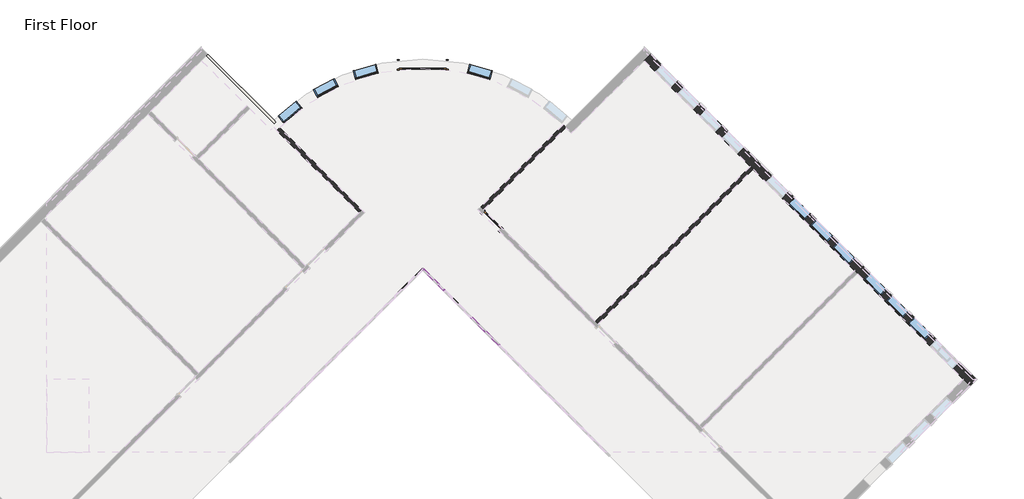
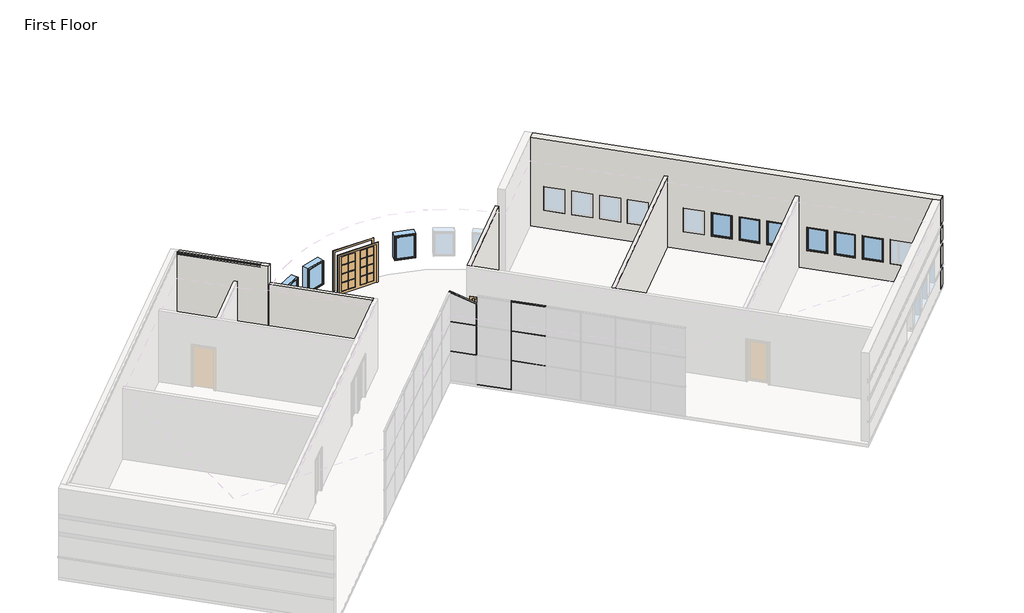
# One storey, part 4 of 5: 19 members, 10 windows, 5 walls, 2 doors.
"""IFC4 building model written with IfcOpenShell, lengths in millimetres."""

from ifc_helpers import new_model, si_unit, point, frame, frame_2d, origin, origin_with_axes, place, context, project, spatial, polyline, circle_curve, ellipse_curve, trimmed, segment, composite_curve, outline, extrude, faceted_brep, transform, mapped, element, save
from ifc_brep_helpers import plane_surface, cylinder_surface, revolved_surface, advanced_brep
from components import door_74f1c961, door_5f5b55da, member_b8a5b5c0, member_155beb68, member_42be4715, member_a3731390, member_6121af53, member_b87a50da, member_76f0c52a, member_b73a8a31, member_4ed907bf, window_15c49d37, window_0e2fc6ce

model = new_model("IFC4")

# Units and contexts
model_context = context("Model", 3, world=origin())
ifc_project = project(units=[si_unit("LENGTHUNIT", "METRE", prefix="MILLI")], contexts=[model_context])

# Site, building, storey
site = spatial("IfcSite", under=ifc_project)
building = spatial("IfcBuilding", under=site)
storey = spatial("IfcBuildingStorey", under=building, Name="First Floor", Elevation=0.0)

# Doors
placement = place(None, origin())
door_shape = door_74f1c961(model_context)
element("IfcDoor", 1, ObjectType="Double-Glass 2 : 72\" x 78\"", at=placement, inside=storey, context=model_context, shape_type="MappedRepresentation", body=[
    mapped(door_shape, transform((-3443.7425556, 10275.0854226, 0.0), x_axis=(-0.9999999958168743, -9.146721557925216e-05, 0.0), y_axis=(9.146721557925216e-05, -0.9999999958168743, 0.0), z_axis=(0.0, 0.0, 1.0))),
])
door_2_shape = door_5f5b55da(model_context)
element("IfcDoor", 2, ObjectType="Single-Glass 1 : 36\" x 84\"", at=placement, inside=storey, context=model_context, shape_type="MappedRepresentation", body=[
    mapped(door_2_shape, transform((-756.7914834, 4195.5530635, 0.0), x_axis=(-0.7071067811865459, 0.7071067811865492, 0.0), y_axis=(-0.7071067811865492, -0.7071067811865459, 0.0), z_axis=(0.0, 0.0, 1.0))),
])

# Members
member_shape = member_b8a5b5c0(model_context)
element("IfcMember", 3, ObjectType="Rectangular Mullion : 1.5\" x 2.5\" Rectangular", at=placement, inside=storey, context=model_context, shape_type="MappedRepresentation", body=[
    mapped(member_shape, transform((-3469.951364, 2295.1063619, 0.0), x_axis=(0.0, 0.0, -1.0), y_axis=(-0.7071067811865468, 0.7071067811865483, 0.0), z_axis=(0.7071067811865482, 0.7071067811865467, 0.0))),
])
member_2_shape = member_155beb68(model_context)
element("IfcMember", 4, ObjectType="Rectangular Mullion : 1.5\" x 2.5\" Rectangular", at=placement, inside=storey, context=model_context, shape_type="MappedRepresentation", body=[
    mapped(member_2_shape, transform((-1536.9512339, 415.9877686, 0.0), x_axis=(-0.7071067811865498, 0.7071067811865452, 0.0), y_axis=(0.7071067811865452, 0.7071067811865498, 0.0), z_axis=(0.0, 0.0, -1.0))),
])
member_3_shape = member_42be4715(model_context)
element("IfcMember", 5, ObjectType="Rectangular Mullion : 1.5\" x 2.5\" Rectangular", at=placement, inside=storey, context=model_context, shape_type="MappedRepresentation", body=[
    mapped(member_3_shape, transform((-1523.4808497, 402.5173844, 1524.0), x_axis=(0.0, 0.0, 1.0), y_axis=(0.7071067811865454, 0.7071067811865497, 0.0), z_axis=(-0.7071067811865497, 0.7071067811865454, 0.0))),
])
element("IfcMember", 6, ObjectType="Rectangular Mullion : 1.5\" x 2.5\" Rectangular", at=placement, inside=storey, context=model_context, shape_type="MappedRepresentation", body=[
    mapped(member_3_shape, transform((-1523.4808497, 402.5173844, 3048.0), x_axis=(0.0, 0.0, 1.0), y_axis=(0.7071067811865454, 0.7071067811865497, 0.0), z_axis=(-0.7071067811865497, 0.7071067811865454, 0.0))),
])
member_4_shape = member_a3731390(model_context)
element("IfcMember", 7, ObjectType="Rectangular Mullion : 1.5\" x 2.5\" Rectangular", at=placement, inside=storey, context=model_context, shape_type="MappedRepresentation", body=[
    mapped(member_4_shape, transform((-3416.0698272, 2295.1063619, 1524.0), x_axis=(0.0, 0.0, 1.0), y_axis=(0.7071067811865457, 0.7071067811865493, 0.0), z_axis=(-0.7071067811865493, 0.7071067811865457, 0.0))),
])
element("IfcMember", 8, ObjectType="Rectangular Mullion : 1.5\" x 2.5\" Rectangular", at=placement, inside=storey, context=model_context, shape_type="MappedRepresentation", body=[
    mapped(member_4_shape, transform((-3416.0698272, 2295.1063619, 3048.0), x_axis=(0.0, 0.0, 1.0), y_axis=(0.7071067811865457, 0.7071067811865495, 0.0), z_axis=(-0.7071067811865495, 0.7071067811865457, 0.0))),
])
member_5_shape = member_6121af53(model_context)
element("IfcMember", 9, ObjectType="Rectangular Mullion : 1.5\" x 2.5\" Rectangular", at=placement, inside=storey, context=model_context, shape_type="MappedRepresentation", body=[
    mapped(member_5_shape, transform((-1550.4216181, 429.4581527, 0.0), x_axis=(0.0, 0.0, -1.0), y_axis=(0.7071067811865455, 0.7071067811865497, 0.0), z_axis=(0.7071067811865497, -0.7071067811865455, 0.0))),
])
element("IfcMember", 10, ObjectType="Rectangular Mullion : 1.5\" x 2.5\" Rectangular", at=placement, inside=storey, context=model_context, shape_type="MappedRepresentation", body=[
    mapped(member_5_shape, transform((-1523.4808497, 402.5173844, 4572.0), x_axis=(0.0, 0.0, 1.0), y_axis=(0.7071067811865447, 0.7071067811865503, 0.0), z_axis=(-0.7071067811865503, 0.7071067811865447, 0.0))),
])
element("IfcMember", 11, ObjectType="Rectangular Mullion : 1.5\" x 2.5\" Rectangular", at=placement, inside=storey, context=model_context, shape_type="MappedRepresentation", body=[
    mapped(member_2_shape, transform((-1536.9512339, 415.9877686, 1524.0), x_axis=(-0.7071067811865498, 0.7071067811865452, 0.0), y_axis=(0.7071067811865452, 0.7071067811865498, 0.0), z_axis=(0.0, 0.0, -1.0))),
])
element("IfcMember", 12, ObjectType="Rectangular Mullion : 1.5\" x 2.5\" Rectangular", at=placement, inside=storey, context=model_context, shape_type="MappedRepresentation", body=[
    mapped(member_2_shape, transform((-2614.5819684, 1493.6185031, 1524.0), x_axis=(-0.7071067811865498, 0.7071067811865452, 0.0), y_axis=(0.7071067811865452, 0.7071067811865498, 0.0), z_axis=(0.0, 0.0, -1.0))),
])
element("IfcMember", 13, ObjectType="Rectangular Mullion : 1.5\" x 2.5\" Rectangular", at=placement, inside=storey, context=model_context, shape_type="MappedRepresentation", body=[
    mapped(member_2_shape, transform((-1536.9512339, 415.9877686, 3048.0), x_axis=(-0.7071067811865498, 0.7071067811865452, 0.0), y_axis=(0.7071067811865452, 0.7071067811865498, 0.0), z_axis=(0.0, 0.0, -1.0))),
])
member_6_shape = member_b87a50da(model_context)
element("IfcMember", 14, ObjectType="Rectangular Mullion : 1.5\" x 2.5\" Rectangular", at=placement, inside=storey, context=model_context, shape_type="MappedRepresentation", body=[
    mapped(member_6_shape, transform((-3443.0105956, 2322.0471303, 4572.0), x_axis=(0.7071067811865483, 0.7071067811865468, 0.0), y_axis=(-0.7071067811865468, 0.7071067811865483, 0.0), z_axis=(0.0, 0.0, 1.0))),
])
element("IfcMember", 15, ObjectType="Rectangular Mullion : 1.5\" x 2.5\" Rectangular", at=placement, inside=storey, context=model_context, shape_type="MappedRepresentation", body=[
    mapped(member_6_shape, transform((-3443.0105956, 2322.0471303, 0.0), x_axis=(-0.7071067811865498, 0.7071067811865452, 0.0), y_axis=(0.7071067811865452, 0.7071067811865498, 0.0), z_axis=(0.0, 0.0, -1.0))),
])
element("IfcMember", 16, ObjectType="Rectangular Mullion : 1.5\" x 2.5\" Rectangular", at=placement, inside=storey, context=model_context, shape_type="MappedRepresentation", body=[
    mapped(member_6_shape, transform((-3443.0105956, 2322.0471303, 1524.0), x_axis=(-0.7071067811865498, 0.7071067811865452, 0.0), y_axis=(0.7071067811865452, 0.7071067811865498, 0.0), z_axis=(0.0, 0.0, -1.0))),
])
element("IfcMember", 17, ObjectType="Rectangular Mullion : 1.5\" x 2.5\" Rectangular", at=placement, inside=storey, context=model_context, shape_type="MappedRepresentation", body=[
    mapped(member_6_shape, transform((-3443.0105956, 2322.0471303, 1524.0), x_axis=(0.7071067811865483, 0.7071067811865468, 0.0), y_axis=(-0.7071067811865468, 0.7071067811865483, 0.0), z_axis=(0.0, 0.0, 1.0))),
])
element("IfcMember", 18, ObjectType="Rectangular Mullion : 1.5\" x 2.5\" Rectangular", at=placement, inside=storey, context=model_context, shape_type="MappedRepresentation", body=[
    mapped(member_6_shape, transform((-3443.0105956, 2322.0471303, 3048.0), x_axis=(0.7071067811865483, 0.7071067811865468, 0.0), y_axis=(-0.7071067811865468, 0.7071067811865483, 0.0), z_axis=(0.0, 0.0, 1.0))),
])
member_7_shape = member_76f0c52a(model_context)
element("IfcMember", 19, ObjectType="Rectangular Mullion : 1.5\" x 2.5\" Rectangular", at=placement, inside=storey, context=model_context, shape_type="MappedRepresentation", body=[
    mapped(member_7_shape, transform((-3443.0105956, 2322.0471303, 4572.0), x_axis=(0.22360679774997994, -0.2236067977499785, 0.9486832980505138), y_axis=(0.7071067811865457, 0.7071067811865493, 0.0), z_axis=(-0.6708203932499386, 0.6708203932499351, 0.3162277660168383))),
])
member_8_shape = member_b73a8a31(model_context)
element("IfcMember", 20, ObjectType="Rectangular Mullion : 1.5\" x 2.5\" Rectangular", at=placement, inside=storey, context=model_context, shape_type="MappedRepresentation", body=[
    mapped(member_8_shape, transform((-2614.5819684, 1493.6185031, 3048.0), x_axis=(-0.7071067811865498, 0.7071067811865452, 0.0), y_axis=(0.7071067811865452, 0.7071067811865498, 0.0), z_axis=(0.0, 0.0, -1.0))),
])
member_9_shape = member_4ed907bf(model_context)
element("IfcMember", 21, ObjectType="Rectangular Mullion : 1.5\" x 2.5\" Rectangular", at=placement, inside=storey, context=model_context, shape_type="MappedRepresentation", body=[
    mapped(member_9_shape, transform((-3443.0105956, 2322.0471303, 3048.0), x_axis=(-0.7071067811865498, 0.7071067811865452, 0.0), y_axis=(0.7071067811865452, 0.7071067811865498, 0.0), z_axis=(0.0, 0.0, -1.0))),
])

# Walls
element("IfcWall", 22, ObjectType="Exterior - Split Face and CMU on Mtl. Stud", at=placement, inside=storey, context=model_context, shape_type="Brep", body=[
    faceted_brep([(5178.0352806, 10444.6887918, 0.0), (9308.9530963, 6313.7709761, 0.0), (9418.9612338, 6203.7628386, 0.0), (13370.2739271, 2252.4501453, 0.0), (13480.2820645, 2142.4420078, 0.0), (17611.1998802, -1988.4758079, 0.0), (17860.4019876, -2237.6779152, 0.0), (17860.4019876, -2237.6779152, 1016.0), (17795.2951307, -2172.5710583, 1016.0), (17795.2951307, -2172.5710583, 1085.85), (17860.4019876, -2237.6779152, 1085.85), (17860.4019876, -2237.6779152, 2133.6), (17795.2951307, -2172.5710583, 2133.6), (17795.2951307, -2172.5710583, 2336.8), (17860.4019876, -2237.6779152, 2336.8), (17860.4019876, -2237.6779152, 3048.0), (17795.2951307, -2172.5710583, 3048.0), (17795.2951307, -2172.5710583, 3251.2), (17860.4019876, -2237.6779152, 3251.2), (17860.4019876, -2237.6779152, 4572.0), (17611.1998802, -1988.4758079, 4572.0), (5178.0352806, 10444.6887918, 4572.0), (17196.9855667, -1574.2614943, 2133.6), (17196.9855667, -1574.2614943, 914.4), (16301.2050186, -678.4809462, 914.4), (16301.2050186, -678.4809462, 2133.6), (5592.2495942, 10030.4744782, 914.4), (5592.2495942, 10030.4744782, 2133.6), (6238.8280349, 9383.8960375, 2133.6), (6238.8280349, 9383.8960375, 914.4), (6454.3541818, 9168.3698906, 914.4), (6454.3541818, 9168.3698906, 2133.6), (7100.9326225, 8521.7914498, 2133.6), (7100.9326225, 8521.7914498, 914.4), (7316.4587694, 8306.2653029, 914.4), (7316.4587694, 8306.2653029, 2133.6), (7963.0372102, 7659.6868622, 2133.6), (7963.0372102, 7659.6868622, 914.4), (8178.5633571, 7444.1607153, 914.4), (8178.5633571, 7444.1607153, 2133.6), (8825.1417978, 6797.5822746, 2133.6), (8825.1417978, 6797.5822746, 914.4), (10549.350973, 5073.3730993, 2133.6), (10549.350973, 5073.3730993, 914.4), (9902.7725323, 5719.9515401, 914.4), (9902.7725323, 5719.9515401, 2133.6), (11411.4555607, 4211.2685117, 2133.6), (11411.4555607, 4211.2685117, 914.4), (10764.8771199, 4857.8469524, 914.4), (10764.8771199, 4857.8469524, 2133.6), (12273.5601483, 3349.1639241, 2133.6), (12273.5601483, 3349.1639241, 914.4), (11626.9817076, 3995.7423648, 914.4), (11626.9817076, 3995.7423648, 2133.6), (13135.6647359, 2487.0593365, 2133.6), (13135.6647359, 2487.0593365, 914.4), (12489.0862952, 3133.6377772, 914.4), (12489.0862952, 3133.6377772, 2133.6), (15439.100431, 183.6236414, 914.4), (15439.100431, 183.6236414, 2133.6), (16085.6788717, -462.9547993, 2133.6), (16085.6788717, -462.9547993, 914.4), (14576.9958433, 1045.728229, 914.4), (14576.9958433, 1045.728229, 2133.6), (15223.574284, 399.1497883, 2133.6), (15223.574284, 399.1497883, 914.4), (13714.8912557, 1907.8328167, 914.4), (13714.8912557, 1907.8328167, 2133.6), (14361.4696964, 1261.2543759, 2133.6), (14361.4696964, 1261.2543759, 914.4), (5427.237388, 10693.8908991, 4572.0), (18109.604095, -1988.4758079, 4572.0), (18109.604095, -1988.4758079, 3251.2), (5427.237388, 10693.8908991, 3251.2), (18109.604095, -1988.4758079, 0.0), (5427.237388, 10693.8908991, 0.0), (5427.237388, 10693.8908991, 1016.0), (5841.4517016, 10279.6765855, 1016.0), (5841.4517016, 10279.6765855, 914.4), (6488.0301423, 9633.0981448, 914.4), (6488.0301423, 9633.0981448, 1016.0), (6703.5562892, 9417.5719979, 1016.0), (6703.5562892, 9417.5719979, 914.4), (7350.1347299, 8770.9935572, 914.4), (7350.1347299, 8770.9935572, 1016.0), (7565.6608768, 8555.4674103, 1016.0), (7565.6608768, 8555.4674103, 914.4), (8212.2393175, 7908.8889696, 914.4), (8212.2393175, 7908.8889696, 1016.0), (8427.7654644, 7693.3628227, 1016.0), (8427.7654644, 7693.3628227, 914.4), (9074.3439051, 7046.7843819, 914.4), (9074.3439051, 7046.7843819, 1016.0), (10151.9746397, 5969.1536474, 1016.0), (10151.9746397, 5969.1536474, 914.4), (10798.5530804, 5322.5752067, 914.4), (10798.5530804, 5322.5752067, 1016.0), (11014.0792273, 5107.0490598, 1016.0), (11014.0792273, 5107.0490598, 914.4), (11660.657668, 4460.4706191, 914.4), (11660.657668, 4460.4706191, 1016.0), (11876.1838149, 4244.9444722, 1016.0), (11876.1838149, 4244.9444722, 914.4), (12522.7622556, 3598.3660315, 914.4), (12522.7622556, 3598.3660315, 1016.0), (12738.2884025, 3382.8398846, 1016.0), (12738.2884025, 3382.8398846, 914.4), (13384.8668433, 2736.2614438, 914.4), (13384.8668433, 2736.2614438, 1016.0), (13964.0933631, 2157.034924, 1016.0), (13964.0933631, 2157.034924, 914.4), (14610.6718038, 1510.4564833, 914.4), (14610.6718038, 1510.4564833, 1016.0), (14826.1979507, 1294.9303364, 1016.0), (14826.1979507, 1294.9303364, 914.4), (15472.7763914, 648.3518957, 914.4), (15472.7763914, 648.3518957, 1016.0), (15688.3025383, 432.8257488, 1016.0), (15688.3025383, 432.8257488, 914.4), (16334.880979, -213.7526919, 914.4), (16334.880979, -213.7526919, 1016.0), (16550.4071259, -429.2788388, 1016.0), (16550.4071259, -429.2788388, 914.4), (17446.187674, -1325.0593869, 914.4), (17446.187674, -1325.0593869, 1016.0), (18109.604095, -1988.4758079, 1016.0), (18109.604095, -1988.4758079, 1085.85), (17446.187674, -1325.0593869, 1085.85), (17446.187674, -1325.0593869, 2133.6), (18109.604095, -1988.4758079, 2133.6), (5841.4517016, 10279.6765855, 1085.85), (5427.237388, 10693.8908991, 1085.85), (5427.237388, 10693.8908991, 2133.6), (5841.4517016, 10279.6765855, 2133.6), (18109.604095, -1988.4758079, 2336.8), (5427.237388, 10693.8908991, 2336.8), (5427.237388, 10693.8908991, 3048.0), (18109.604095, -1988.4758079, 3048.0), (16334.880979, -213.7526919, 2133.6), (16550.4071259, -429.2788388, 2133.6), (16550.4071259, -429.2788388, 1085.85), (16334.880979, -213.7526919, 1085.85), (6488.0301423, 9633.0981448, 1085.85), (6488.0301423, 9633.0981448, 2133.6), (6703.5562892, 9417.5719979, 2133.6), (6703.5562892, 9417.5719979, 1085.85), (15472.7763914, 648.3518957, 2133.6), (15688.3025383, 432.8257488, 2133.6), (15688.3025383, 432.8257488, 1085.85), (15472.7763914, 648.3518957, 1085.85), (7350.1347299, 8770.9935572, 1085.85), (7350.1347299, 8770.9935572, 2133.6), (7565.6608768, 8555.4674103, 2133.6), (7565.6608768, 8555.4674103, 1085.85), (14610.6718038, 1510.4564833, 2133.6), (14826.1979507, 1294.9303364, 2133.6), (14826.1979507, 1294.9303364, 1085.85), (14610.6718038, 1510.4564833, 1085.85), (8212.2393175, 7908.8889696, 1085.85), (8212.2393175, 7908.8889696, 2133.6), (8427.7654644, 7693.3628227, 2133.6), (8427.7654644, 7693.3628227, 1085.85), (13384.8668433, 2736.2614438, 2133.6), (13964.0933631, 2157.034924, 2133.6), (13964.0933631, 2157.034924, 1085.85), (13384.8668433, 2736.2614438, 1085.85), (9074.3439051, 7046.7843819, 1085.85), (9074.3439051, 7046.7843819, 2133.6), (10151.9746397, 5969.1536474, 2133.6), (10151.9746397, 5969.1536474, 1085.85), (12522.7622556, 3598.3660315, 2133.6), (12738.2884025, 3382.8398846, 2133.6), (12738.2884025, 3382.8398846, 1085.85), (12522.7622556, 3598.3660315, 1085.85), (10798.5530804, 5322.5752067, 1085.85), (10798.5530804, 5322.5752067, 2133.6), (11014.0792273, 5107.0490598, 2133.6), (11014.0792273, 5107.0490598, 1085.85), (11660.657668, 4460.4706191, 1085.85), (11660.657668, 4460.4706191, 2133.6), (11876.1838149, 4244.9444722, 2133.6), (11876.1838149, 4244.9444722, 1085.85), (5362.1305311, 10628.7840422, 0.0), (18044.4972381, -2053.5826647, 0.0), (17979.3903812, -1988.4758079, 1085.85), (17381.0808171, -1390.1662438, 1085.85), (17381.0808171, -1390.1662438, 1016.0), (17979.3903812, -1988.4758079, 1016.0), (17979.3903812, -1988.4758079, 2133.6), (17381.0808171, -1390.1662438, 2133.6), (16485.3002691, -494.3856957, 2133.6), (16269.7741222, -278.8595488, 2133.6), (15623.1956814, 367.7188919, 2133.6), (15407.6695345, 583.2450388, 2133.6), (14761.0910938, 1229.8234795, 2133.6), (14545.5649469, 1445.3496264, 2133.6), (13898.9865062, 2091.9280671, 2133.6), (13319.7599864, 2671.154587, 2133.6), (12673.1815457, 3317.7330277, 2133.6), (12457.6553988, 3533.2591746, 2133.6), (11811.076958, 4179.8376153, 2133.6), (11595.5508111, 4395.3637622, 2133.6), (10948.9723704, 5041.9422029, 2133.6), (10733.4462235, 5257.4683498, 2133.6), (10086.8677828, 5904.0467905, 2133.6), (9009.2370483, 6981.6775251, 2133.6), (8362.6586076, 7628.2559658, 2133.6), (8147.1324606, 7843.7821127, 2133.6), (7500.5540199, 8490.3605534, 2133.6), (7285.027873, 8705.8867003, 2133.6), (6638.4494323, 9352.465141, 2133.6), (6422.9232854, 9567.9912879, 2133.6), (5776.3448447, 10214.5697287, 2133.6), (5362.1305311, 10628.7840422, 2133.6), (5362.1305311, 10628.7840422, 2336.8), (17979.3903812, -1988.4758079, 2336.8), (17979.3903812, -1988.4758079, 3251.2), (17979.3903812, -1988.4758079, 3048.0), (5362.1305311, 10628.7840422, 3048.0), (5362.1305311, 10628.7840422, 3251.2), (5362.1305311, 10628.7840422, 1085.85), (5362.1305311, 10628.7840422, 1016.0), (5776.3448447, 10214.5697287, 1085.85), (5776.3448447, 10214.5697287, 1016.0), (16269.7741222, -278.8595488, 1085.85), (16485.3002691, -494.3856957, 1085.85), (16485.3002691, -494.3856957, 1016.0), (16269.7741222, -278.8595488, 1016.0), (6422.9232854, 9567.9912879, 1085.85), (6422.9232854, 9567.9912879, 1016.0), (15407.6695345, 583.2450388, 1085.85), (15623.1956814, 367.7188919, 1085.85), (15623.1956814, 367.7188919, 1016.0), (15407.6695345, 583.2450388, 1016.0), (6638.4494323, 9352.465141, 1016.0), (6638.4494323, 9352.465141, 1085.85), (7285.027873, 8705.8867003, 1085.85), (7285.027873, 8705.8867003, 1016.0), (14545.5649469, 1445.3496264, 1085.85), (14761.0910938, 1229.8234795, 1085.85), (14761.0910938, 1229.8234795, 1016.0), (14545.5649469, 1445.3496264, 1016.0), (7500.5540199, 8490.3605534, 1016.0), (7500.5540199, 8490.3605534, 1085.85), (8147.1324606, 7843.7821127, 1085.85), (8147.1324606, 7843.7821127, 1016.0), (13319.7599864, 2671.154587, 1085.85), (13898.9865062, 2091.9280671, 1085.85), (13898.9865062, 2091.9280671, 1016.0), (13319.7599864, 2671.154587, 1016.0), (8362.6586076, 7628.2559658, 1016.0), (8362.6586076, 7628.2559658, 1085.85), (9009.2370483, 6981.6775251, 1085.85), (9009.2370483, 6981.6775251, 1016.0), (12457.6553988, 3533.2591746, 1085.85), (12673.1815457, 3317.7330277, 1085.85), (12673.1815457, 3317.7330277, 1016.0), (12457.6553988, 3533.2591746, 1016.0), (10733.4462235, 5257.4683498, 1085.85), (10733.4462235, 5257.4683498, 1016.0), (10086.8677828, 5904.0467905, 1016.0), (10086.8677828, 5904.0467905, 1085.85), (11595.5508111, 4395.3637622, 1085.85), (11595.5508111, 4395.3637622, 1016.0), (10948.9723704, 5041.9422029, 1016.0), (10948.9723704, 5041.9422029, 1085.85), (11811.076958, 4179.8376153, 1016.0), (11811.076958, 4179.8376153, 1085.85)], [[[0, 1, 2, 3, 4, 5, 6, 7, 8, 9, 10, 11, 12, 13, 14, 15, 16, 17, 18, 19, 20, 21], [22, 23, 24, 25], [26, 27, 28, 29], [30, 31, 32, 33], [34, 35, 36, 37], [38, 39, 40, 41], [42, 43, 44, 45], [46, 47, 48, 49], [50, 51, 52, 53], [54, 55, 56, 57], [58, 59, 60, 61], [62, 63, 64, 65], [66, 67, 68, 69]], [[70, 71, 72, 73]], [[74, 75, 76, 77, 78, 79, 80, 81, 82, 83, 84, 85, 86, 87, 88, 89, 90, 91, 92, 93, 94, 95, 96, 97, 98, 99, 100, 101, 102, 103, 104, 105, 106, 107, 108, 109, 110, 111, 112, 113, 114, 115, 116, 117, 118, 119, 120, 121, 122, 123, 124, 125]], [[126, 127, 128, 129]], [[130, 131, 132, 133]], [[134, 135, 136, 137]], [[138, 139, 140, 141]], [[142, 143, 144, 145]], [[146, 147, 148, 149]], [[150, 151, 152, 153]], [[154, 155, 156, 157]], [[158, 159, 160, 161]], [[162, 163, 164, 165]], [[166, 167, 168, 169]], [[170, 171, 172, 173]], [[174, 175, 176, 177]], [[178, 179, 180, 181]], [[21, 20, 19, 71, 70]], [[6, 5, 4, 3, 2, 1, 0, 182, 183]], [[184, 185, 127, 126, 10, 9]], [[186, 187, 8, 7, 125, 124]], [[185, 184, 187, 186]], [[188, 189, 190, 191, 192, 193, 194, 195, 196, 197, 198, 199, 200, 201, 202, 203, 204, 205, 206, 207, 208, 209, 210, 211, 212, 213, 214, 215]], [[216, 217, 218, 219]], [[0, 21, 70, 73, 219, 218, 136, 135, 214, 213, 132, 131, 220, 221, 76, 75, 182]], [[75, 74, 183, 182]], [[131, 130, 222, 220]], [[77, 76, 221, 223]], [[132, 213, 212, 133]], [[189, 188, 12, 11, 129, 128]], [[139, 138, 191, 190]], [[143, 211, 210, 144]], [[147, 146, 193, 192]], [[151, 209, 208, 152]], [[155, 154, 195, 194]], [[159, 207, 206, 160]], [[163, 162, 197, 196]], [[167, 205, 204, 168]], [[171, 170, 199, 198]], [[201, 200, 180, 179]], [[203, 202, 176, 175]], [[215, 214, 135, 134, 14, 13]], [[218, 217, 16, 15, 137, 136]], [[17, 216, 219, 73, 72, 18]], [[71, 19, 18, 72]], [[6, 183, 74, 125, 7]], [[14, 134, 137, 15]], [[11, 10, 126, 129]], [[188, 215, 13, 12]], [[217, 216, 17, 16]], [[23, 123, 122, 24]], [[23, 22, 189, 128, 127, 185, 186, 124, 123]], [[189, 22, 25, 190]], [[224, 225, 226, 227]], [[27, 26, 78, 77, 223, 222, 130, 133, 212]], [[79, 78, 26, 29]], [[29, 28, 211, 143, 142, 228, 229, 80, 79]], [[28, 27, 212, 211]], [[230, 231, 232, 233]], [[225, 224, 141, 140]], [[227, 226, 121, 120]], [[31, 30, 82, 81, 234, 235, 145, 144, 210]], [[83, 82, 30, 33]], [[33, 32, 209, 151, 150, 236, 237, 84, 83]], [[32, 31, 210, 209]], [[238, 239, 240, 241]], [[231, 230, 149, 148]], [[233, 232, 117, 116]], [[35, 34, 86, 85, 242, 243, 153, 152, 208]], [[87, 86, 34, 37]], [[37, 36, 207, 159, 158, 244, 245, 88, 87]], [[36, 35, 208, 207]], [[246, 247, 248, 249]], [[239, 238, 157, 156]], [[241, 240, 113, 112]], [[39, 38, 90, 89, 250, 251, 161, 160, 206]], [[91, 90, 38, 41]], [[41, 40, 205, 167, 166, 252, 253, 92, 91]], [[40, 39, 206, 205]], [[254, 255, 256, 257]], [[247, 246, 165, 164]], [[249, 248, 109, 108]], [[43, 42, 203, 175, 174, 258, 259, 96, 95]], [[44, 43, 95, 94]], [[45, 44, 94, 93, 260, 261, 169, 168, 204]], [[42, 45, 204, 203]], [[47, 46, 201, 179, 178, 262, 263, 100, 99]], [[48, 47, 99, 98]], [[49, 48, 98, 97, 264, 265, 177, 176, 202]], [[46, 49, 202, 201]], [[51, 50, 199, 170, 173, 254, 257, 104, 103]], [[52, 51, 103, 102]], [[53, 52, 102, 101, 266, 267, 181, 180, 200]], [[50, 53, 200, 199]], [[55, 54, 197, 162, 165, 246, 249, 108, 107]], [[56, 55, 107, 106]], [[57, 56, 106, 105, 256, 255, 172, 171, 198]], [[54, 57, 198, 197]], [[244, 251, 250, 245]], [[261, 252, 166, 169]], [[253, 260, 93, 92]], [[252, 261, 260, 253]], [[265, 258, 174, 177]], [[259, 264, 97, 96]], [[258, 265, 264, 259]], [[267, 262, 178, 181]], [[263, 266, 101, 100]], [[262, 267, 266, 263]], [[255, 254, 173, 172]], [[257, 256, 105, 104]], [[24, 122, 121, 226, 225, 140, 139, 190, 25]], [[59, 58, 118, 117, 232, 231, 148, 147, 192]], [[119, 118, 58, 61]], [[61, 60, 191, 138, 141, 224, 227, 120, 119]], [[60, 59, 192, 191]], [[63, 62, 114, 113, 240, 239, 156, 155, 194]], [[115, 114, 62, 65]], [[65, 64, 193, 146, 149, 230, 233, 116, 115]], [[64, 63, 194, 193]], [[67, 66, 110, 109, 248, 247, 164, 163, 196]], [[111, 110, 66, 69]], [[69, 68, 195, 154, 157, 238, 241, 112, 111]], [[68, 67, 196, 195]], [[220, 222, 223, 221]], [[235, 228, 142, 145]], [[229, 234, 81, 80]], [[228, 235, 234, 229]], [[243, 236, 150, 153]], [[237, 242, 85, 84]], [[236, 243, 242, 237]], [[251, 244, 158, 161]], [[245, 250, 89, 88]], [[187, 184, 9, 8]]]),
])
element("IfcWall", 23, ObjectType="Exterior - Split Face and CMU on Mtl. Stud", at=placement, inside=storey, context=model_context, shape_type="AdvancedBrep", body=[
    advanced_brep(
    [(-9232.9945042, 7613.6268242, 0.0), (-9232.9945042, 7613.6268242, 4689.475), (-12064.0564718, 10444.6887918, 4689.475), (-12064.0564718, 10444.6887918, 4639.3965909), (-9486.6705627, 7867.3028826, 4639.3965909), (-9486.6705627, 7867.3028826, 4572.0), (-12064.0564718, 10444.6887918, 4572.0), (-12064.0564718, 10444.6887918, 0.0), (-10303.9262721, 8684.558592, 0.0), (-10193.9181346, 8574.5504545, 0.0), (-11814.8543645, 10693.8908991, 0.0), (-11814.8543645, 10693.8908991, 1016.0), (-9237.4684553, 8116.50499, 1016.0), (-9172.3610055, 8051.3975402, 1016.0), (-9172.3610055, 8051.3975402, 1085.85), (-9237.4684553, 8116.50499, 1085.85), (-11814.8543645, 10693.8908991, 1085.85), (-11814.8543645, 10693.8908991, 2133.6), (-9237.4684553, 8116.50499, 2133.6), (-9172.3610055, 8051.3975402, 2133.6), (-9172.3610055, 8051.3975402, 2336.8), (-9237.4684553, 8116.50499, 2336.8), (-11814.8543645, 10693.8908991, 2336.8), (-11814.8543645, 10693.8908991, 3048.0), (-9237.4684553, 8116.50499, 3048.0), (-9172.3610055, 8051.3975402, 3048.0), (-9172.3610055, 8051.3975402, 3251.2), (-9237.4684553, 8116.50499, 3251.2), (-11814.8543645, 10693.8908991, 3251.2), (-11814.8543645, 10693.8908991, 4572.0), (-9237.4684553, 8116.50499, 4572.0), (-8988.2640035, 7867.3005381, 4572.0), (-8988.2640035, 7867.3005381, 0.0), (-9237.4684553, 8116.50499, 0.0), (-9237.3789518, 7986.2017727, 1016.0), (-11879.9612214, 10628.7840422, 1016.0), (-11879.9612214, 10628.7840422, 1085.85), (-9237.3789518, 7986.2017727, 1085.85), (-9237.3789518, 7986.2017727, 2133.6), (-11879.9612214, 10628.7840422, 2133.6), (-11879.9612214, 10628.7840422, 2336.8), (-9237.3789518, 7986.2017727, 2336.8), (-9237.3789518, 7986.2017727, 3048.0), (-11879.9612214, 10628.7840422, 3048.0), (-11879.9612214, 10628.7840422, 3251.2), (-9237.3789518, 7986.2017727, 3251.2), (-9411.2798641, 7942.6935812, 4653.9354839), (-11988.6657733, 10520.0794903, 4653.9354839), (-9132.9284077, 7720.1066184, 0.0), (-9024.2284636, 7831.4229492, 0.0)],
    [
        (0, 1),
        (1, 2),
        (2, 3),
        (3, 4),
        (4, 5),
        (5, 6),
        (6, 7),
        (7, 8),
        (8, 9),
        (9, 0),
        (10, 11),
        (11, 12),
        (12, 13),
        (13, 14),
        (14, 15),
        (15, 16),
        (16, 17),
        (17, 18),
        (18, 19),
        (19, 20),
        (20, 21),
        (21, 22),
        (22, 23),
        (23, 24),
        (24, 25),
        (25, 26),
        (26, 27),
        (27, 28),
        (28, 29),
        (29, 30),
        (30, 31),
        (31, 32),
        (32, 33),
        (33, 10),
        (34, 35),
        (35, 36),
        (36, 37),
        (37, 34),
        (38, 39),
        (39, 40),
        (40, 41),
        (41, 38),
        (42, 43),
        (43, 44),
        (44, 45),
        (45, 42),
        (4, 46),
        (46, 30),
        (30, 5),
        (10, 7),
        (6, 29),
        (28, 44),
        (43, 23),
        (22, 40),
        (39, 17),
        (16, 36),
        (35, 11),
        (2, 47),
        (47, 3),
        (14, 37, circle_curve(frame((-3443.0105956, 2272.6557216, 1085.85), z_axis=(0.0, 0.0, 1.0), x_axis=(-0.7040995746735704, 0.7101012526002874, 0.0)), 8137.525)),
        (34, 13, circle_curve(frame((-3443.0105956, 2272.6557216, 1016.0), z_axis=(0.0, 0.0, -1.0), x_axis=(-0.7040995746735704, 0.7101012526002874, 0.0)), 8137.525)),
        (38, 19, circle_curve(frame((-3443.0105956, 2272.6557216, 2133.6), z_axis=(0.0, 0.0, -1.0), x_axis=(-0.712055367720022, 0.7021233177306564, 0.0)), 8137.525)),
        (41, 20, circle_curve(frame((-3443.0105956, 2272.6557216, 2336.8), z_axis=(0.0, 0.0, -1.0), x_axis=(-0.712055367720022, 0.7021233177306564, 0.0)), 8137.525)),
        (42, 25, circle_curve(frame((-3443.0105956, 2272.6557216, 3048.0), z_axis=(0.0, 0.0, -1.0), x_axis=(-0.712055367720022, 0.7021233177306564, 0.0)), 8137.525)),
        (45, 26, circle_curve(frame((-3443.0105956, 2272.6557216, 3251.2), z_axis=(0.0, 0.0, -1.0), x_axis=(-0.712055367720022, 0.7021233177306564, 0.0)), 8137.525)),
        (0, 48, circle_curve(frame((-3443.0105956, 2272.6557216, 0.0), z_axis=(0.0, 0.0, -1.0), x_axis=(1.0, 0.0, 0.0)), 7877.175)),
        (48, 49, circle_curve(frame((-3443.0105956, 2272.6557216, 0.0), z_axis=(0.0, 0.0, -1.0), x_axis=(1.0, 0.0, 0.0)), 7877.175)),
        (49, 32, circle_curve(frame((-3443.0105956, 2272.6557216, 0.0), z_axis=(0.0, 0.0, -1.0), x_axis=(1.0, 0.0, 0.0)), 7877.175)),
        (31, 1, ellipse_curve(frame((-3443.0105956, 2272.6557216, 4583.6416667), z_axis=(0.22360679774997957, 0.22360679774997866, 0.9486832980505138), x_axis=(0.6708203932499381, 0.6708203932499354, -0.31622776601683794)), 8303.2715092, 7877.175)),
        (46, 47),
    ],
    [
        plane_surface(frame((-12313.2585792, 10693.8908991, 0.0), z_axis=(-0.707106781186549, -0.7071067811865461, 0.0), x_axis=(0.7071067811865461, -0.707106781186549, 0.0))),
        plane_surface(frame((-12064.0564718, 10943.0930065, 0.0), z_axis=(0.707106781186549, 0.7071067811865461, 0.0), x_axis=(-0.7071067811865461, 0.707106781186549, 0.0))),
        plane_surface(frame((-12064.0564718, 10812.8792927, 1016.0), z_axis=(0.707106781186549, 0.707106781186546, 0.0), x_axis=(0.707106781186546, -0.707106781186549, 0.0))),
        plane_surface(frame((-12064.0564718, 10812.8792927, 2133.6), z_axis=(0.7071067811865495, 0.7071067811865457, 0.0), x_axis=(0.7071067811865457, -0.7071067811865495, 0.0))),
        plane_surface(frame((-12064.0564718, 10812.8792927, 3048.0), z_axis=(0.7071067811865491, 0.7071067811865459, 0.0), x_axis=(0.7071067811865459, -0.7071067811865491, 0.0))),
        plane_surface(frame((-9237.4684553, 8116.50499, 4185.7445793), z_axis=(-0.7071067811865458, 0.7071067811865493, 0.0), x_axis=(0.7071067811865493, 0.7071067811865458, 0.0))),
        plane_surface(frame((-24746.4231788, -2237.6779152, 0.0), z_axis=(-0.7071067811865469, 0.7071067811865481, 0.0), x_axis=(0.7071067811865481, 0.7071067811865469, 0.0))),
        plane_surface(frame((-25013.5857984, -1970.5152956, 4572.0), z_axis=(0.0, 0.0, 1.0), x_axis=(0.7071067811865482, 0.7071067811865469, 0.0))),
        plane_surface(frame((-3443.0105956, 2272.6557216, 1085.85), z_axis=(0.0, 0.0, -1.0), x_axis=(-0.7040995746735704, 0.7101012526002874, 0.0))),
        plane_surface(frame((-3443.0105956, 2272.6557216, 1016.0), z_axis=(0.0, 0.0, 1.0), x_axis=(-0.7040995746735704, 0.7101012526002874, 0.0))),
        cylinder_surface(frame((-3443.0105956, 2272.6557216, 1016.0), z_axis=(0.0, 0.0, -1.0), x_axis=(-0.7040995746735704, 0.7101012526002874, 0.0)), 8137.525),
        plane_surface(frame((-3443.0105956, 2272.6557216, 2133.6), z_axis=(0.0, 0.0, 1.0), x_axis=(-0.712055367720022, 0.7021233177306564, 0.0))),
        cylinder_surface(frame((-3443.0105956, 2272.6557216, 2133.6), z_axis=(0.0, 0.0, -1.0), x_axis=(-0.712055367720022, 0.7021233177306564, 0.0)), 8137.525),
        plane_surface(frame((-3443.0105956, 2272.6557216, 2336.8), z_axis=(0.0, 0.0, -1.0), x_axis=(-0.712055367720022, 0.7021233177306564, 0.0))),
        plane_surface(frame((-3443.0105956, 2272.6557216, 3048.0), z_axis=(0.0, 0.0, 1.0), x_axis=(-0.712055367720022, 0.7021233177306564, 0.0))),
        cylinder_surface(frame((-3443.0105956, 2272.6557216, 3048.0), z_axis=(0.0, 0.0, -1.0), x_axis=(-0.712055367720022, 0.7021233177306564, 0.0)), 8137.525),
        plane_surface(frame((-3443.0105956, 2272.6557216, 3251.2), z_axis=(0.0, 0.0, -1.0), x_axis=(-0.712055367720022, 0.7021233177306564, 0.0))),
        revolved_surface(polyline([(4434.1644044, 2272.6557216, 0.0), (4434.1644044, 2272.6557216, 7209.366666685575)]), (-3443.0105956, 2272.6557216, 0.0), (0.0, 0.0, -1.0)),
        plane_surface(frame((-1718.8014204, 2322.0471303, 4165.6), z_axis=(0.22360679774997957, 0.22360679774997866, 0.9486832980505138), x_axis=(-0.7071067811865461, 0.707106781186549, 0.0))),
        plane_surface(frame((-12064.0564718, 10404.2776392, 4635.5), z_axis=(0.09553946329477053, 0.09553946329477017, -0.9908301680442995), x_axis=(0.7071067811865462, -0.7071067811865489, 0.0))),
        plane_surface(frame((-16499.1804636, -10484.9206304, 0.0), z_axis=(0.0, 0.0, -1.0), x_axis=(0.7071067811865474, -0.7071067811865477, 0.0))),
    ],
    [
        (0, [[1, 2, 3, 4, 5, 6, 7, 8, 9, 10]]),
        (1, [[11, 12, 13, 14, 15, 16, 17, 18, 19, 20, 21, 22, 23, 24, 25, 26, 27, 28, 29, 30, 31, 32, 33, 34]]),
        (2, [[35, 36, 37, 38]]),
        (3, [[39, 40, 41, 42]]),
        (4, [[43, 44, 45, 46]]),
        (5, [[47, 48, 49, -5]]),
        (6, [[-11, 50, -7, 51, -29, 52, -44, 53, -23, 54, -40, 55, -17, 56, -36, 57]]),
        (6, [[-3, 58, 59]]),
        (7, [[-49, -30, -51, -6]]),
        (8, [[-37, -56, -16, -15, 60]]),
        (9, [[-35, 61, -13, -12, -57]]),
        (10, [[-38, -60, -14, -61]]),
        (11, [[-39, 62, -19, -18, -55]]),
        (12, [[-42, 63, -20, -62]]),
        (13, [[-41, -54, -22, -21, -63]]),
        (14, [[-43, 64, -25, -24, -53]]),
        (15, [[-46, 65, -26, -64]]),
        (16, [[-45, -52, -28, -27, -65]]),
        (17, [[66, 67, 68, -32, 69, -1]]),
        (18, [[-2, -69, -31, -48, 70, -58]]),
        (19, [[-47, -4, -59, -70]]),
        (20, [[-68, -67, -66, -10, -9, -8, -50, -34, -33]]),
    ],
),
])
element("IfcWall", 24, ObjectType="Interior - 6 1/8\" Partition (2-hr)", at=placement, inside=storey, context=model_context, shape_type="SweptSolid", body=[
    extrude(outline(composite_curve([segment(polyline([(-9024.2284636, 7831.4229492), (-5813.7982116, 4620.9926972), (-5923.8063491, 4510.9845598), (-9132.9284077, 7720.1066184)]), True, "CONTINUOUS"), segment(trimmed(circle_curve(frame_2d((-3443.0105956, 2272.6557216)), 7877.175), [point((-9132.9284077, 7720.1066184))], [point((-9024.2284636, 7831.4229492))], False, "CARTESIAN"), True, "CONTINUOUS")], self_intersect=False)), origin_with_axes(), (0.0, 0.0, 1.0), 3657.6),
])
element("IfcWall", 25, ObjectType="Interior - 6 1/8\" Partition (2-hr)", at=placement, inside=storey, context=model_context, shape_type="AdvancedBrep", body=[
    advanced_brep(
    [(-1077.8356397, 4626.6053573, 0.0), (2132.6030957, 7837.0440928, 0.0), (2132.6030957, 7837.0440928, 3657.6), (-1077.8356397, 4626.6053573, 3657.6), (-1187.8437772, 4736.6134948, 0.0), (-1187.8437772, 4736.6134948, 3657.6), (2021.619387, 7946.076659, 3657.6), (2021.619387, 7946.076659, 0.0), (2102.2424893, 7867.3008561, 0.0)],
    [
        (0, 1),
        (1, 2),
        (2, 3),
        (3, 0),
        (4, 5),
        (5, 6),
        (6, 7),
        (7, 4),
        (0, 4),
        (7, 8, circle_curve(frame((-3443.0105956, 2272.6557216, 0.0), z_axis=(0.0, 0.0, -1.0), x_axis=(1.0, 0.0, 0.0)), 7877.175)),
        (8, 1, circle_curve(frame((-3443.0105956, 2272.6557216, 0.0), z_axis=(0.0, 0.0, -1.0), x_axis=(1.0, 0.0, 0.0)), 7877.1749985)),
        (2, 6, circle_curve(frame((-3443.0105956, 2272.6557216, 3657.6), z_axis=(0.0, 0.0, 1.0), x_axis=(1.0, 0.0, 0.0)), 7877.175)),
        (5, 3),
    ],
    [
        plane_surface(frame((-1132.8397085, 4571.6012886, 0.0), z_axis=(0.707106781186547, -0.7071067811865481, 0.0), x_axis=(0.7071067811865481, 0.707106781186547, 0.0))),
        plane_surface(frame((-1242.8478459, 4681.6094261, 0.0), z_axis=(-0.707106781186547, 0.7071067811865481, 0.0), x_axis=(-0.7071067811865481, -0.707106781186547, 0.0))),
        plane_surface(frame((-1132.8397085, 4571.6012886, 0.0), z_axis=(0.0, 0.0, -1.0000000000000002), x_axis=(-0.7071067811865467, 0.7071067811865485, 0.0))),
        plane_surface(frame((2256.9927783, 7961.4337753, 3657.6), z_axis=(0.0, 0.0, 1.0000000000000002), x_axis=(-0.7071067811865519, 0.7071067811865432, 0.0))),
        plane_surface(frame((11698.8237565, -8150.0540389, 0.0), z_axis=(-0.7071067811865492, -0.7071067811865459, 0.0), x_axis=(-0.7071067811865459, 0.7071067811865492, 0.0))),
        cylinder_surface(frame((-3443.0105956, 2272.6557216, 0.0), z_axis=(0.0, 0.0, -1.0), x_axis=(1.0, 0.0, 0.0)), 7877.175),
    ],
    [
        (0, [[1, 2, 3, 4]]),
        (1, [[5, 6, 7, 8]]),
        (2, [[-1, 9, -8, 10, 11]]),
        (3, [[-3, 12, -6, 13]]),
        (4, [[-4, -13, -5, -9]]),
        (5, [[-2, -11, -10, -7, -12]]),
    ],
),
])
element("IfcWall", 26, ObjectType="Interior - 6 1/8\" Partition (2-hr)", at=placement, inside=storey, context=model_context, shape_type="SweptSolid", body=[
    extrude(outline(polyline([(3271.9759189, 276.7937987), (9308.9530963, 6313.7709761), (9418.9612338, 6203.7628386), (3381.9840564, 166.7856612), (3271.9759189, 276.7937987)])), origin_with_axes(), (0.0, 0.0, 1.0), 3657.6),
])

# Windows
window_shape = window_15c49d37(model_context)
element("IfcWindow", 27, ObjectType="Fixed : 36\" x 48\"", at=placement, inside=storey, context=model_context, shape_type="MappedRepresentation", body=[
    mapped(window_shape, transform((-8641.2060106, 8407.2065347, 0.0), x_axis=(-0.7659856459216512, -0.6428576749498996, 0.0), y_axis=(0.6428576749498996, -0.7659856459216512, 0.0), z_axis=(0.0, 0.0, 1.0))),
])
element("IfcWindow", 28, ObjectType="Fixed : 36\" x 48\"", at=placement, inside=storey, context=model_context, shape_type="MappedRepresentation", body=[
    mapped(window_shape, transform((-7253.371199, 9353.2701952, 0.0), x_axis=(-0.8828248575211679, -0.4697023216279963, 0.0), y_axis=(0.4697023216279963, -0.8828248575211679, 0.0), z_axis=(0.0, 0.0, 1.0))),
])
element("IfcWindow", 29, ObjectType="Fixed : 36\" x 48\"", at=placement, inside=storey, context=model_context, shape_type="MappedRepresentation", body=[
    mapped(window_shape, transform((-5699.2744355, 9990.3770651, 0.0), x_axis=(-0.961142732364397, -0.27605189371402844, 0.0), y_axis=(0.27605189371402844, -0.961142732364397, 0.0), z_axis=(0.0, 0.0, 1.0))),
])
element("IfcWindow", 30, ObjectType="Fixed : 36\" x 48\"", at=placement, inside=storey, context=model_context, shape_type="MappedRepresentation", body=[
    mapped(window_shape, transform((14135.8407614, 1736.0854184, 0.0), x_axis=(-0.7071067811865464, 0.7071067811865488, 0.0), y_axis=(-0.7071067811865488, -0.7071067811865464, 0.0), z_axis=(0.0, 0.0, 1.0))),
])
element("IfcWindow", 31, ObjectType="Fixed : 36\" x 48\"", at=placement, inside=storey, context=model_context, shape_type="MappedRepresentation", body=[
    mapped(window_shape, transform((14997.945349, 873.9808307, 0.0), x_axis=(-0.7071067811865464, 0.7071067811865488, 0.0), y_axis=(-0.7071067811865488, -0.7071067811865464, 0.0), z_axis=(0.0, 0.0, 1.0))),
])
element("IfcWindow", 32, ObjectType="Fixed : 36\" x 48\"", at=placement, inside=storey, context=model_context, shape_type="MappedRepresentation", body=[
    mapped(window_shape, transform((15860.0499366, 11.8762431, 0.0), x_axis=(-0.7071067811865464, 0.7071067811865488, 0.0), y_axis=(-0.7071067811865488, -0.7071067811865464, 0.0), z_axis=(0.0, 0.0, 1.0))),
])
window_2_shape = window_0e2fc6ce(model_context)
element("IfcWindow", 33, ObjectType="Fixed : 36\" x 48\"", at=placement, inside=storey, context=model_context, shape_type="MappedRepresentation", body=[
    mapped(window_2_shape, transform((-1188.1586304, 9990.7896843, 0.0), x_axis=(0.9611932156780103, -0.2758760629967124, 0.0), y_axis=(0.2758760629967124, 0.9611932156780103, 0.0), z_axis=(0.0, 0.0, 1.0))),
])
element("IfcWindow", 34, ObjectType="Fixed : 36\" x 48\"", at=placement, inside=storey, context=model_context, shape_type="MappedRepresentation", body=[
    mapped(window_2_shape, transform((12963.9173376, 2908.0088422, 0.0), x_axis=(0.7071067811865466, -0.7071067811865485, 0.0), y_axis=(0.7071067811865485, 0.7071067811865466, 0.0), z_axis=(0.0, 0.0, 1.0))),
])
element("IfcWindow", 35, ObjectType="Fixed : 36\" x 48\"", at=placement, inside=storey, context=model_context, shape_type="MappedRepresentation", body=[
    mapped(window_2_shape, transform((12101.81275, 3770.1134298, 0.0), x_axis=(0.7071067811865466, -0.7071067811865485, 0.0), y_axis=(0.7071067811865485, 0.7071067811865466, 0.0), z_axis=(0.0, 0.0, 1.0))),
])
element("IfcWindow", 36, ObjectType="Fixed : 36\" x 48\"", at=placement, inside=storey, context=model_context, shape_type="MappedRepresentation", body=[
    mapped(window_2_shape, transform((11239.7081623, 4632.2180174, 0.0), x_axis=(0.7071067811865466, -0.7071067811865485, 0.0), y_axis=(0.7071067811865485, 0.7071067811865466, 0.0), z_axis=(0.0, 0.0, 1.0))),
])

save(model, "model.ifc")
